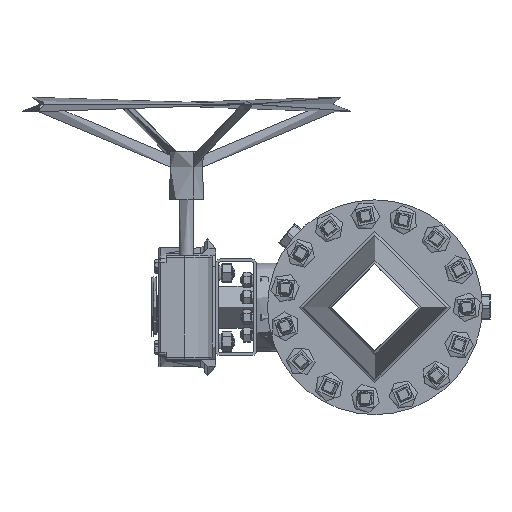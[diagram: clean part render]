
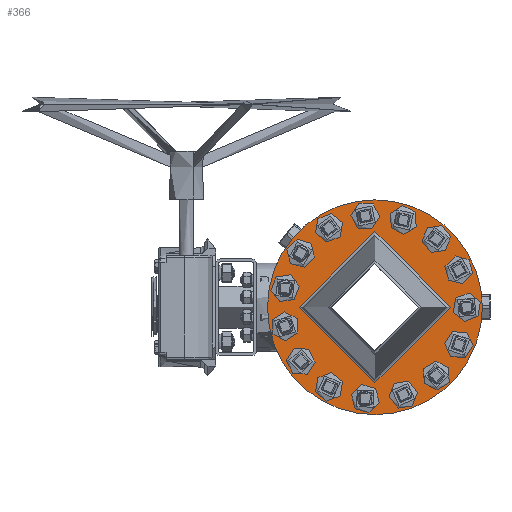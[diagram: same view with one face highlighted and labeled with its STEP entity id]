
A CAD part, left-side view. The second image highlights one B-rep face of the part: STEP entity #366.
In plain terms, the highlighted planar face has unit normal (-1, 0, 0).
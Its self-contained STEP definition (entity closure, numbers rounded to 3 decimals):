
#366=ADVANCED_FACE('',(#25882,#25884,#25886,#25888,#25890,#25892,#25894,#25896,#25898,
#25900,#25902,#25904,#25906,#25908,#25910,#25912,#25914),#25916,.T.);
#25882=FACE_BOUND('',#25883,.T.);
#25883=EDGE_LOOP('',(#44059));
#25884=FACE_BOUND('',#25885,.T.);
#25885=EDGE_LOOP('',(#44060));
#25886=FACE_BOUND('',#25887,.T.);
#25887=EDGE_LOOP('',(#44061));
#25888=FACE_BOUND('',#25889,.T.);
#25889=EDGE_LOOP('',(#44062));
#25890=FACE_BOUND('',#25891,.T.);
#25891=EDGE_LOOP('',(#44063));
#25892=FACE_BOUND('',#25893,.T.);
#25893=EDGE_LOOP('',(#44064));
#25894=FACE_BOUND('',#25895,.T.);
#25895=EDGE_LOOP('',(#44065));
#25896=FACE_BOUND('',#25897,.T.);
#25897=EDGE_LOOP('',(#44066));
#25898=FACE_BOUND('',#25899,.T.);
#25899=EDGE_LOOP('',(#44067));
#25900=FACE_BOUND('',#25901,.T.);
#25901=EDGE_LOOP('',(#44068));
#25902=FACE_BOUND('',#25903,.T.);
#25903=EDGE_LOOP('',(#44069));
#25904=FACE_BOUND('',#25905,.T.);
#25905=EDGE_LOOP('',(#44070));
#25906=FACE_BOUND('',#25907,.T.);
#25907=EDGE_LOOP('',(#44071));
#25908=FACE_BOUND('',#25909,.T.);
#25909=EDGE_LOOP('',(#44072));
#25910=FACE_BOUND('',#25911,.T.);
#25911=EDGE_LOOP('',(#44073));
#25912=FACE_BOUND('',#25913,.T.);
#25913=EDGE_LOOP('',(#44074));
#25914=FACE_OUTER_BOUND('',#25915,.T.);
#25915=EDGE_LOOP('',(#44075));
#25916=PLANE('',#25917);
#25917=AXIS2_PLACEMENT_3D('',#25918,#25919,#25920);
#25918=CARTESIAN_POINT('',(-115.,0.,0.));
#25919=DIRECTION('',(-1.,0.,0.));
#25920=DIRECTION('',(0.,1.,0.));
#44059=ORIENTED_EDGE('',*,*,#83791,.F.);
#44060=ORIENTED_EDGE('',*,*,#83792,.F.);
#44061=ORIENTED_EDGE('',*,*,#83793,.F.);
#44062=ORIENTED_EDGE('',*,*,#83794,.T.);
#44063=ORIENTED_EDGE('',*,*,#83795,.T.);
#44064=ORIENTED_EDGE('',*,*,#83796,.T.);
#44065=ORIENTED_EDGE('',*,*,#83797,.T.);
#44066=ORIENTED_EDGE('',*,*,#83798,.T.);
#44067=ORIENTED_EDGE('',*,*,#83799,.F.);
#44068=ORIENTED_EDGE('',*,*,#83800,.T.);
#44069=ORIENTED_EDGE('',*,*,#83801,.T.);
#44070=ORIENTED_EDGE('',*,*,#83802,.T.);
#44071=ORIENTED_EDGE('',*,*,#83803,.T.);
#44072=ORIENTED_EDGE('',*,*,#83804,.T.);
#44073=ORIENTED_EDGE('',*,*,#83805,.F.);
#44074=ORIENTED_EDGE('',*,*,#83806,.T.);
#44075=ORIENTED_EDGE('',*,*,#83560,.F.);
#83560=EDGE_CURVE('',#87341,#87341,#87343,.T.);
#83791=EDGE_CURVE('',#87689,#87689,#87690,.T.);
#83792=EDGE_CURVE('',#87691,#87691,#87692,.T.);
#83793=EDGE_CURVE('',#87693,#87693,#87694,.T.);
#83794=EDGE_CURVE('',#87695,#87695,#87696,.F.);
#83795=EDGE_CURVE('',#87697,#87697,#87698,.F.);
#83796=EDGE_CURVE('',#87699,#87699,#87700,.F.);
#83797=EDGE_CURVE('',#87701,#87701,#87702,.F.);
#83798=EDGE_CURVE('',#87703,#87703,#87704,.T.);
#83799=EDGE_CURVE('',#87705,#87705,#87706,.T.);
#83800=EDGE_CURVE('',#87707,#87707,#87708,.F.);
#83801=EDGE_CURVE('',#87709,#87709,#87710,.F.);
#83802=EDGE_CURVE('',#87711,#87711,#87712,.F.);
#83803=EDGE_CURVE('',#87713,#87713,#87714,.F.);
#83804=EDGE_CURVE('',#87715,#87715,#87716,.F.);
#83805=EDGE_CURVE('',#87717,#87717,#87718,.T.);
#83806=EDGE_CURVE('',#87719,#87719,#87720,.F.);
#87341=VERTEX_POINT('',#98461);
#87343=CIRCLE('',#98465,155.);
#87689=VERTEX_POINT('',#103213);
#87690=CIRCLE('',#103214,17.1);
#87691=VERTEX_POINT('',#103218);
#87692=CIRCLE('',#103219,17.1);
#87693=VERTEX_POINT('',#103223);
#87694=CIRCLE('',#103224,17.1);
#87695=VERTEX_POINT('',#103228);
#87696=CIRCLE('',#103229,17.1);
#87697=VERTEX_POINT('',#103233);
#87698=CIRCLE('',#103234,17.1);
#87699=VERTEX_POINT('',#103238);
#87700=CIRCLE('',#103239,17.1);
#87701=VERTEX_POINT('',#103243);
#87702=CIRCLE('',#103244,17.1);
#87703=VERTEX_POINT('',#103248);
#87704=CIRCLE('',#103249,109.201);
#87705=VERTEX_POINT('',#103253);
#87706=CIRCLE('',#103254,17.1);
#87707=VERTEX_POINT('',#103258);
#87708=CIRCLE('',#103259,17.1);
#87709=VERTEX_POINT('',#103263);
#87710=CIRCLE('',#103264,17.1);
#87711=VERTEX_POINT('',#103268);
#87712=CIRCLE('',#103269,17.1);
#87713=VERTEX_POINT('',#103273);
#87714=CIRCLE('',#103274,17.1);
#87715=VERTEX_POINT('',#103278);
#87716=CIRCLE('',#103279,17.1);
#87717=VERTEX_POINT('',#103283);
#87718=CIRCLE('',#103284,17.1);
#87719=VERTEX_POINT('',#103288);
#87720=CIRCLE('',#103289,17.1);
#98461=CARTESIAN_POINT('',(-115.,155.,0.));
#98465=AXIS2_PLACEMENT_3D('',#98466,#98467,#98468);
#98466=CARTESIAN_POINT('',(-115.,0.,0.));
#98467=DIRECTION('',(1.,-0.,-0.));
#98468=DIRECTION('',(0.,1.,0.));
#103213=CARTESIAN_POINT('',(-115.,23.273,117.505));
#103214=AXIS2_PLACEMENT_3D('',#103215,#103216,#103217);
#103215=CARTESIAN_POINT('',(-115.,13.85,131.774));
#103216=DIRECTION('',(-1.,0.,0.));
#103217=DIRECTION('',(0.,0.551,-0.834));
#103218=CARTESIAN_POINT('',(-115.,-71.75,95.921));
#103219=AXIS2_PLACEMENT_3D('',#103220,#103221,#103222);
#103220=CARTESIAN_POINT('',(-115.,-88.66,98.467));
#103221=DIRECTION('',(-1.,0.,0.));
#103222=DIRECTION('',(0.,0.989,-0.149));
#103223=CARTESIAN_POINT('',(-115.,-119.294,10.863));
#103224=AXIS2_PLACEMENT_3D('',#103225,#103226,#103227);
#103225=CARTESIAN_POINT('',(-115.,-132.5,0.));
#103226=DIRECTION('',(-1.,0.,0.));
#103227=DIRECTION('',(0.,0.772,0.635));
#103228=CARTESIAN_POINT('',(-115.,-87.896,-81.384));
#103229=AXIS2_PLACEMENT_3D('',#103230,#103231,#103232);
#103230=CARTESIAN_POINT('',(-115.,-88.66,-98.467));
#103231=DIRECTION('',(-1.,0.,0.));
#103232=DIRECTION('',(0.,0.045,0.999));
#103233=CARTESIAN_POINT('',(-115.,1.666,-119.776));
#103234=AXIS2_PLACEMENT_3D('',#103235,#103236,#103237);
#103235=CARTESIAN_POINT('',(-115.,13.85,-131.774));
#103236=DIRECTION('',(-1.,0.,0.));
#103237=DIRECTION('',(-0.,-0.713,0.702));
#103238=CARTESIAN_POINT('',(-115.,90.126,-78.908));
#103239=AXIS2_PLACEMENT_3D('',#103240,#103241,#103242);
#103240=CARTESIAN_POINT('',(-115.,107.195,-77.882));
#103241=DIRECTION('',(-1.,0.,0.));
#103242=DIRECTION('',(0.,-0.998,-0.06));
#103243=CARTESIAN_POINT('',(-115.,102.896,61.331));
#103244=AXIS2_PLACEMENT_3D('',#103245,#103246,#103247);
#103245=CARTESIAN_POINT('',(-115.,107.195,77.882));
#103246=DIRECTION('',(-1.,0.,0.));
#103247=DIRECTION('',(0.,-0.251,-0.968));
#103248=CARTESIAN_POINT('',(-115.,109.201,0.));
#103249=AXIS2_PLACEMENT_3D('',#103250,#103251,#103252);
#103250=CARTESIAN_POINT('',(-115.,0.,0.));
#103251=DIRECTION('',(1.,-0.,-0.));
#103252=DIRECTION('',(0.,1.,0.));
#103253=CARTESIAN_POINT('',(-115.,118.946,14.177));
#103254=AXIS2_PLACEMENT_3D('',#103255,#103256,#103257);
#103255=CARTESIAN_POINT('',(-115.,129.605,27.548));
#103256=DIRECTION('',(-1.,0.,0.));
#103257=DIRECTION('',(0.,-0.623,-0.782));
#103258=CARTESIAN_POINT('',(-115.,114.428,-35.428));
#103259=AXIS2_PLACEMENT_3D('',#103260,#103261,#103262);
#103260=CARTESIAN_POINT('',(-115.,129.605,-27.548));
#103261=DIRECTION('',(-1.,0.,0.));
#103262=DIRECTION('',(0.,-0.887,-0.461));
#103263=CARTESIAN_POINT('',(-115.,50.239,-108.743));
#103264=AXIS2_PLACEMENT_3D('',#103265,#103266,#103267);
#103265=CARTESIAN_POINT('',(-115.,66.25,-114.748));
#103266=DIRECTION('',(-1.,0.,0.));
#103267=DIRECTION('',(-0.,-0.936,0.351));
#103268=CARTESIAN_POINT('',(-115.,-47.195,-110.098));
#103269=AXIS2_PLACEMENT_3D('',#103270,#103271,#103272);
#103270=CARTESIAN_POINT('',(-115.,-40.945,-126.015));
#103271=DIRECTION('',(-1.,0.,0.));
#103272=DIRECTION('',(-0.,-0.366,0.931));
#103273=CARTESIAN_POINT('',(-115.,-113.399,-38.597));
#103274=AXIS2_PLACEMENT_3D('',#103275,#103276,#103277);
#103275=CARTESIAN_POINT('',(-115.,-121.045,-53.893));
#103276=DIRECTION('',(-1.,0.,0.));
#103277=DIRECTION('',(0.,0.447,0.894));
#103278=CARTESIAN_POINT('',(-115.,-104.562,58.445));
#103279=AXIS2_PLACEMENT_3D('',#103280,#103281,#103282);
#103280=CARTESIAN_POINT('',(-115.,-121.045,53.893));
#103281=DIRECTION('',(-1.,0.,0.));
#103282=DIRECTION('',(0.,0.964,0.266));
#103283=CARTESIAN_POINT('',(-115.,-26.532,116.812));
#103284=AXIS2_PLACEMENT_3D('',#103285,#103286,#103287);
#103285=CARTESIAN_POINT('',(-115.,-40.945,126.015));
#103286=DIRECTION('',(-1.,0.,0.));
#103287=DIRECTION('',(0.,0.843,-0.538));
#103288=CARTESIAN_POINT('',(-115.,69.055,97.88));
#103289=AXIS2_PLACEMENT_3D('',#103290,#103291,#103292);
#103290=CARTESIAN_POINT('',(-115.,66.25,114.748));
#103291=DIRECTION('',(-1.,0.,0.));
#103292=DIRECTION('',(0.,0.164,-0.986));
